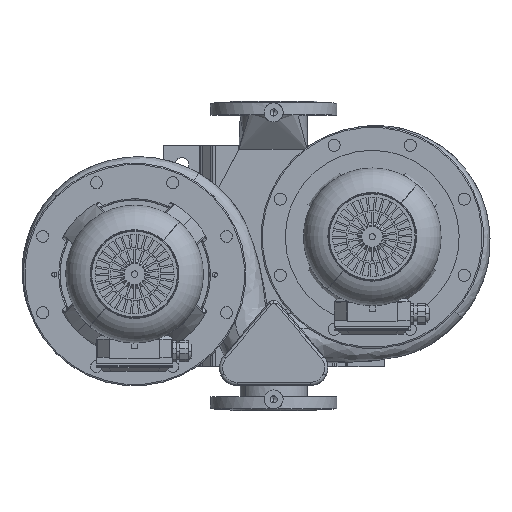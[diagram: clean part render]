
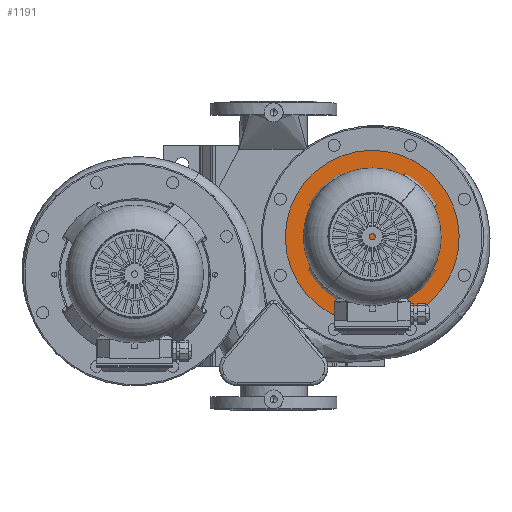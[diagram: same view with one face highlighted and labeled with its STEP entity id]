
A CAD part, top view. The second image highlights one B-rep face of the part: STEP entity #1191.
In plain terms, the highlighted planar face has unit normal (0, 0, 1) as drawn and (-1, 0, 0) by its records, which use the part's own axes.
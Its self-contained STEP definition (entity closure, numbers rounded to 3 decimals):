
#1191=ADVANCED_FACE('',(#2490),#2491,.T.);
#2490=FACE_OUTER_BOUND('',#5711,.T.);
#2491=PLANE('',#5712);
#5711=EDGE_LOOP('',(#14217,#14218));
#5712=AXIS2_PLACEMENT_3D('',#14219,#14220,#14221);
#14217=ORIENTED_EDGE('',*,*,#22298,.F.);
#14218=ORIENTED_EDGE('',*,*,#22342,.F.);
#14219=CARTESIAN_POINT('',(-41.0,68.75,0.0));
#14220=DIRECTION('',(-1.0,-0.0,0.0));
#14221=DIRECTION('',(0.0,-1.0,-0.0));
#22298=EDGE_CURVE('',#36407,#36410,#36411,.T.);
#22342=EDGE_CURVE('',#36410,#36407,#36474,.T.);
#36407=VERTEX_POINT('',#42073);
#36410=VERTEX_POINT('',#42077);
#36411=CIRCLE('',#42078,137.5);
#36474=CIRCLE('',#42146,137.5);
#42073=CARTESIAN_POINT('',(-41.0,137.5,0.0));
#42077=CARTESIAN_POINT('',(-41.0,-137.5,0.));
#42078=AXIS2_PLACEMENT_3D('',#54458,#54459,#54460);
#42146=AXIS2_PLACEMENT_3D('',#54544,#54545,#54546);
#54458=CARTESIAN_POINT('',(-41.0,0.0,0.0));
#54459=DIRECTION('',(1.0,0.0,0.0));
#54460=DIRECTION('',(0.0,1.0,0.0));
#54544=CARTESIAN_POINT('',(-41.0,0.0,0.0));
#54545=DIRECTION('',(1.0,0.0,0.0));
#54546=DIRECTION('',(0.0,1.0,0.0));
